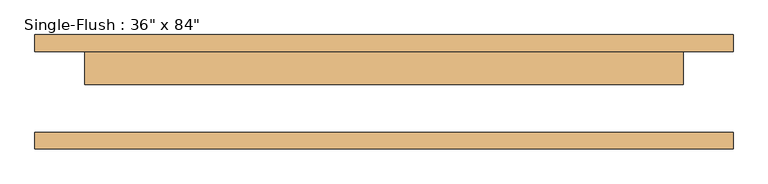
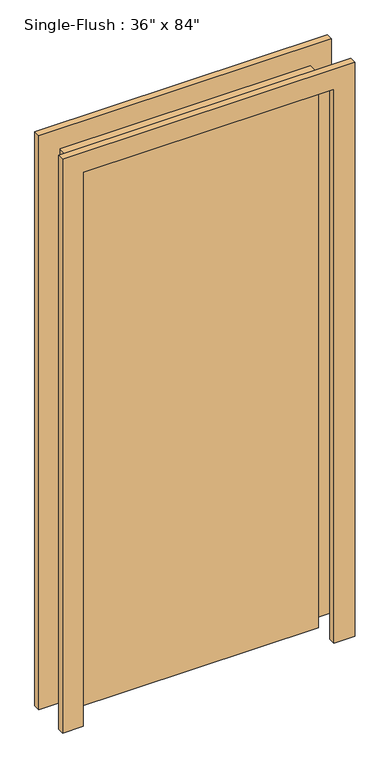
"""IFC4 building model written with IfcOpenShell, lengths in millimetres: door geometry."""

from ifc_helpers import new_model, si_unit, frame, origin, origin_with_axes, place, context, project, spatial, polyline, outline, extrude, source, transform, mapped, element, save


def door_88503111(model_context):
    return source(origin(), model_context, "Body", "SweptSolid", [
        extrude(outline(polyline([(2209.8, -533.4), (0.0, -533.4), (0.0, -457.2), (2133.6, -457.2), (2133.6, 457.2), (0.0, 457.2), (0.0, 533.4), (2209.8, 533.4), (2209.8, -533.4)])), frame((0.0, 61.9125, 0.0), z_axis=(0.0, 1.0, 0.0), x_axis=(0.0, 0.0, 1.0)), (0.0, 0.0, 1.0), 25.4),
        extrude(outline(polyline([(2209.8, 533.4), (2209.8, -533.4), (0.0, -533.4), (0.0, -457.2), (2133.6, -457.2), (2133.6, 457.2), (0.0, 457.2), (0.0, 533.4), (2209.8, 533.4)])), frame((0.0, -87.3125, 0.0), z_axis=(0.0, 1.0, 0.0), x_axis=(0.0, 0.0, 1.0)), (0.0, 0.0, 1.0), 25.4),
        extrude(outline(polyline([(457.2, 11.1125), (-457.2, 11.1125), (-457.2, 61.9125), (457.2, 61.9125), (457.2, 11.1125)])), origin_with_axes(), (0.0, 0.0, 1.0), 2133.6),
    ])


if __name__ == "__main__":
    model = new_model("IFC4")
    model_context = context("Model", 3, world=origin())
    ifc_project = project(units=[si_unit("LENGTHUNIT", "METRE", prefix="MILLI")], contexts=[model_context])
    site = spatial("IfcSite", under=ifc_project)
    building = spatial("IfcBuilding", under=site)
    placement = place(None, origin())
    door_shape = door_88503111(model_context)
    element("IfcDoor", 1, ObjectType="Single-Flush : 36\" x 84\"", at=placement, inside=building, context=model_context, shape_type="MappedRepresentation", body=[
        mapped(door_shape, transform((0.0, 0.0, 0.0), x_axis=(1.0, 0.0, 0.0), y_axis=(0.0, 1.0, 0.0), z_axis=(0.0, 0.0, 1.0))),
    ])
    save(model, "model.ifc")
